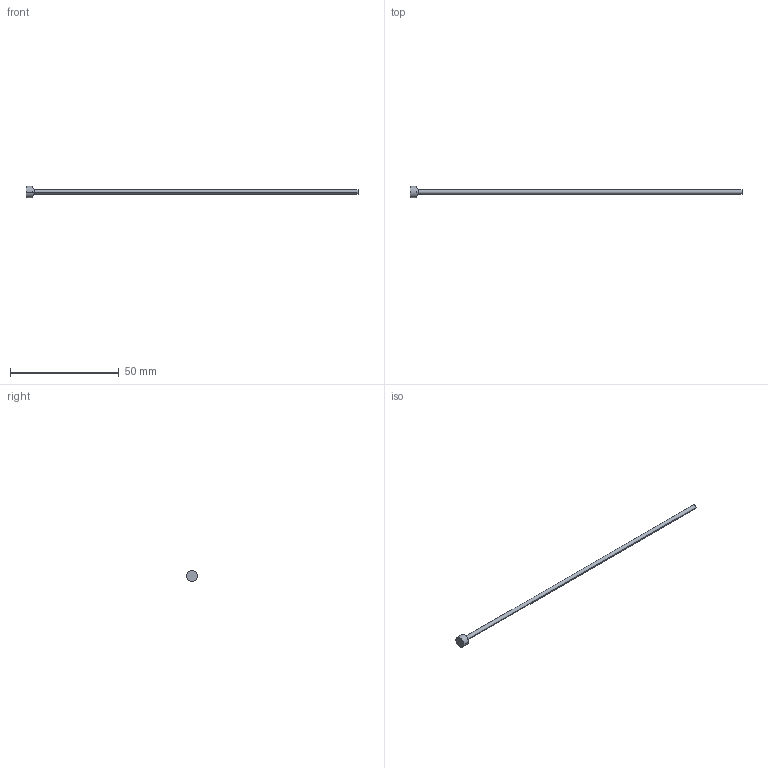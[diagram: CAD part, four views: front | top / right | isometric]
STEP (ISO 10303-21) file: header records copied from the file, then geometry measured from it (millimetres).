
FILE_DESCRIPTION (( 'STEP AP214' ), '1' );
FILE_NAME ('P6-6.STEP', '2020-03-11T16:25:00', ( '' ), ( '' ), 'SwSTEP 2.0', 'SolidWorks 2018', '' );
FILE_SCHEMA (( 'AUTOMOTIVE_DESIGN' ));
Length unit declared in the file: inch
Products named in the file (1): P6-6
Bounding box: 152.4 x 5.16 x 5.16 mm (x, y, z)
Volume: 525.1 mm3; surface area: 1016.3 mm2
Topology: 1 solids, 1 shells, 13 faces, 24 edges, 14 vertices
Faces by surface type: cone 4, cylinder 4, plane 3, torus 2
Entity records: 366 total; most frequent: DIRECTION 68, CARTESIAN_POINT 52, ORIENTED_EDGE 48, AXIS2_PLACEMENT_3D 30, EDGE_CURVE 24, CIRCLE 16, EDGE_LOOP 14, VERTEX_POINT 14
